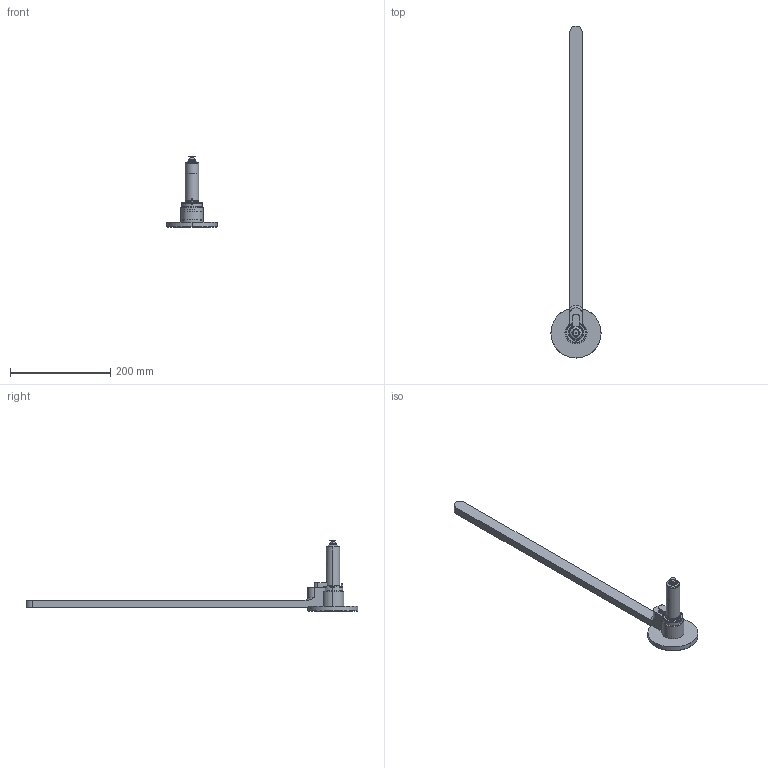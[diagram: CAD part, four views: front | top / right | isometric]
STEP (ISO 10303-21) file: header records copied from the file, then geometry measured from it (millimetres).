
FILE_DESCRIPTION (( 'STEP AP214' ), '1' );
FILE_NAME ('09S-03-090-TTW-C.STEP', '2023-01-04T09:02:28', ( '' ), ( '' ), 'SwSTEP 2.0', 'SolidWorks 2018', '' );
FILE_SCHEMA (( 'AUTOMOTIVE_DESIGN' ));
Length unit declared in the file: millimetre
Products named in the file (3): cutout_09S-03-090-TTW-C; nozzle_09S-03-090-TTW-C; 09S-03-090-TTW-C
Assembly tree (2 placements, depth 2):
  09S-03-090-TTW-C
    nozzle_09S-03-090-TTW-C
    cutout_09S-03-090-TTW-C
Bounding box: 100 x 662.5 x 140 mm (x, y, z)
Volume: 413903.3 mm3; surface area: 114685.6 mm2
Topology: 1 solids, 6 shells, 546 faces, 1443 edges, 902 vertices
Faces by surface type: cylinder 230, plane 145, cone 99, torus 58, sphere 9, bspline 5
Entity records: 21689 total; most frequent: CARTESIAN_POINT 7811, DIRECTION 3008, ORIENTED_EDGE 2862, EDGE_CURVE 1432, AXIS2_PLACEMENT_3D 1227, VERTEX_POINT 902, CIRCLE 680, EDGE_LOOP 577
